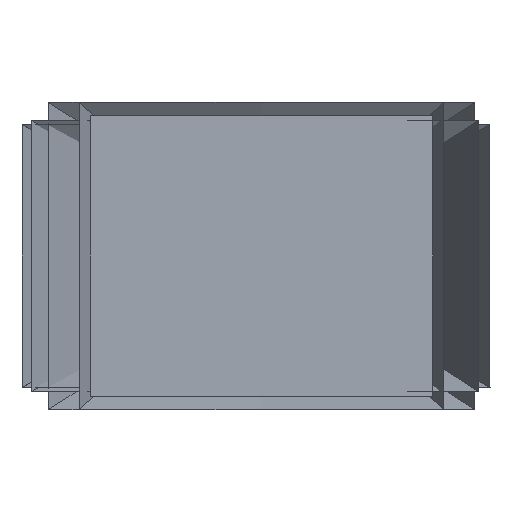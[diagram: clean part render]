
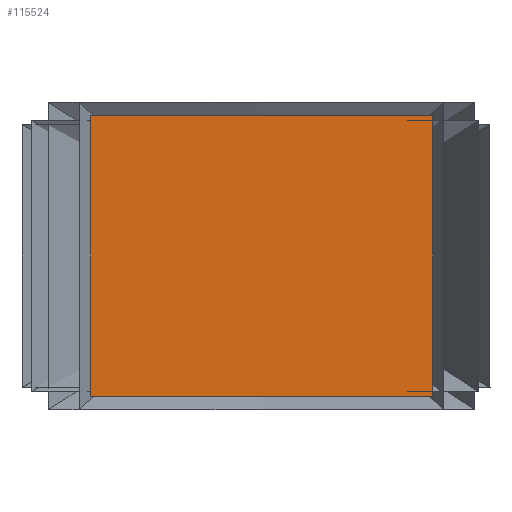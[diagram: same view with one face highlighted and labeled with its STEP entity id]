
A CAD part, front view. The second image highlights one B-rep face of the part: STEP entity #115524.
In plain terms, the highlighted planar face has unit normal (0, -1, 0).
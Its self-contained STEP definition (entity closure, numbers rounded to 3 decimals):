
#115385=DIRECTION('',(0.,0.,-1.));
#115386=VECTOR('',#115385,590.);
#115387=CARTESIAN_POINT('',(-610.,-935.25,277.05));
#115388=LINE('',#115387,#115386);
#115405=DIRECTION('',(0.,0.,-1.));
#115406=VECTOR('',#115405,590.);
#115407=CARTESIAN_POINT('',(110.,-935.25,277.05));
#115408=LINE('',#115407,#115406);
#115409=DIRECTION('',(-1.,0.,0.));
#115410=VECTOR('',#115409,720.);
#115411=CARTESIAN_POINT('',(110.,-935.25,-312.95));
#115412=LINE('',#115411,#115410);
#115417=DIRECTION('',(-1.,0.,0.));
#115418=VECTOR('',#115417,720.);
#115419=CARTESIAN_POINT('',(110.,-935.25,277.05));
#115420=LINE('',#115419,#115418);
#115433=CARTESIAN_POINT('',(-610.,-935.25,277.05));
#115434=VERTEX_POINT('',#115433);
#115435=CARTESIAN_POINT('',(-610.,-935.25,-312.95));
#115436=VERTEX_POINT('',#115435);
#115441=CARTESIAN_POINT('',(110.,-935.25,-312.95));
#115442=VERTEX_POINT('',#115441);
#115443=CARTESIAN_POINT('',(110.,-935.25,277.05));
#115444=VERTEX_POINT('',#115443);
#115511=CARTESIAN_POINT('',(110.,-935.25,277.05));
#115512=DIRECTION('',(0.,-1.,0.));
#115513=DIRECTION('',(-1.,0.,0.));
#115514=AXIS2_PLACEMENT_3D('',#115511,#115512,#115513);
#115515=PLANE('',#115514);
#115516=ORIENTED_EDGE('',*,*,#115454,.F.);
#115518=ORIENTED_EDGE('',*,*,#115517,.F.);
#115520=ORIENTED_EDGE('',*,*,#115519,.T.);
#115521=ORIENTED_EDGE('',*,*,#115497,.T.);
#115522=EDGE_LOOP('',(#115516,#115518,#115520,#115521));
#115523=FACE_OUTER_BOUND('',#115522,.F.);
#115524=ADVANCED_FACE('',(#115523),#115515,.T.);
#115454=EDGE_CURVE('',#115434,#115436,#115388,.T.);
#115497=EDGE_CURVE('',#115442,#115436,#115412,.T.);
#115517=EDGE_CURVE('',#115444,#115434,#115420,.T.);
#115519=EDGE_CURVE('',#115444,#115442,#115408,.T.);
